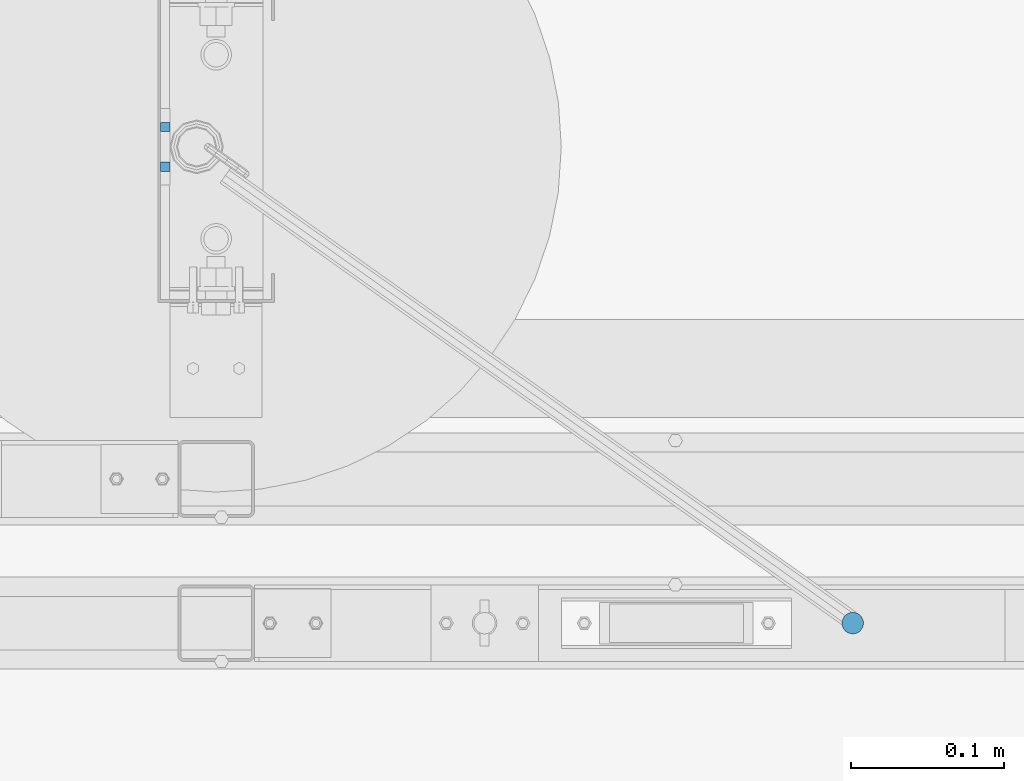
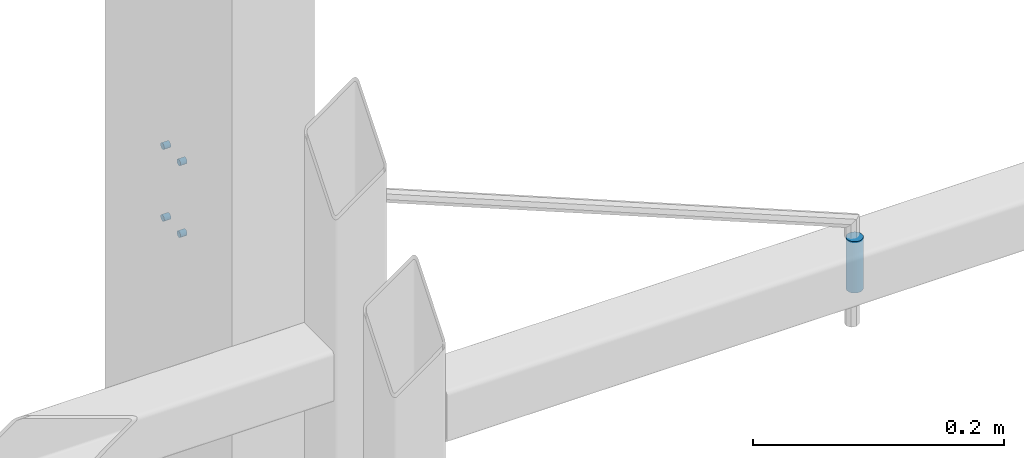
# One storey, part 30 of 91: 5 mechanical fasteners, 2 elements without a shape of their own.
"""IFC2X3 building model written with IfcOpenShell, lengths in millimetres."""

from ifc_helpers import new_model, si_unit, frame, origin_with_axes, origin_2d_with_axis, place, context, subcontext, project, spatial, circle, extrude, source, transform, mapped, material, type_object, element, aggregate, save


model = new_model("IFC2X3")

# Units and contexts
model_context = context("Model", 3, precision=1e-05, world=origin_with_axes())
body_context = subcontext(model_context, "Body", "Model", "MODEL_VIEW")
ifc_project = project(units=[si_unit("LENGTHUNIT", "METRE", prefix="MILLI"), si_unit("AREAUNIT", "SQUARE_METRE"), si_unit("VOLUMEUNIT", "CUBIC_METRE"), si_unit("MASSUNIT", "GRAM", prefix="KILO"), si_unit("TIMEUNIT", "SECOND"), si_unit("PLANEANGLEUNIT", "RADIAN"), si_unit("SOLIDANGLEUNIT", "STERADIAN"), si_unit("THERMODYNAMICTEMPERATUREUNIT", "DEGREE_CELSIUS"), si_unit("LUMINOUSINTENSITYUNIT", "LUMEN")], contexts=[model_context])

# Site, building, storey
site_placement = place(None, origin_with_axes())
site = spatial("IfcSite", under=ifc_project, at=site_placement, Name="Undefined", CompositionType="ELEMENT")
building_placement = place(site_placement, origin_with_axes())
building = spatial("IfcBuilding", under=site, at=building_placement, Name="Undefined", CompositionType="ELEMENT")
storey_placement = place(building_placement, origin_with_axes())
storey = spatial("IfcBuildingStorey", under=building, at=storey_placement, Name="Undefined", CompositionType="ELEMENT", Elevation=0.0)

# Assembly, mechanical fastener
assembly_1_placement = place(storey_placement, origin_with_axes())
assembly_1 = element("IfcElementAssembly", 1, at=assembly_1_placement, inside=storey, Name="SLIDING DOOR", AssemblyPlace="NOTDEFINED", PredefinedType="RIGID_FRAME")
ifc_material = material(Name="8.8S")
discrete_accessory_type = type_object("IfcDiscreteAccessoryType", Name="Bolt assembly")
shared_shape_1 = source(origin_with_axes(), body_context, "Body", "SweptSolid", [
    extrude(circle(Radius=7.0, at=origin_2d_with_axis()), frame((0.0, 0.0033333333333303, 0.0), z_axis=(0.0, 1.0, 0.0), x_axis=(1.0, 0.0, 0.0)), (0.0, 0.0, 1.0), 50.1),
])
mechanical_fastener_1_placement = place(assembly_1_placement, frame((-113343.336232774, 84618.15, 1147.34), z_axis=(1.0, 0.0, 0.0), x_axis=(0.0, -1.0, 0.0)))
mechanical_fastener_1 = element("IfcMechanicalFastener", 2, at=mechanical_fastener_1_placement, type_object=discrete_accessory_type, material=ifc_material, Name="Bolt assembly", NominalDiameter=12.0, NominalLength=49.9966659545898, context=body_context, shape_type="MappedRepresentation", body=[
    mapped(shared_shape_1, transform((0.0, 0.0, 0.0))),
])
aggregate(assembly_1, [mechanical_fastener_1])

# Assembly, mechanical fasteners
assembly_2_placement = place(storey_placement, origin_with_axes())
assembly_2 = element("IfcElementAssembly", 3, at=assembly_2_placement, inside=storey, Name="PLATE", AssemblyPlace="NOTDEFINED", PredefinedType="RIGID_FRAME")
shared_shape_2 = source(origin_with_axes(), body_context, "Body", "SweptSolid", [
    extrude(circle(Radius=3.0, at=origin_2d_with_axis()), frame((0.0, 0.0, 0.0), z_axis=(0.0, 1.0, 0.0), x_axis=(1.0, 0.0, 0.0)), (0.0, 0.0, 1.0), 6.1),
])
mechanical_fastener_2_placement = place(assembly_2_placement, frame((-113788.442606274, 84941.6517781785, 1127.34478745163), z_axis=(0.0, -1.0, 0.0), x_axis=(0.0, 0.0, 1.0)))
mechanical_fastener_2 = element("IfcMechanicalFastener", 4, at=mechanical_fastener_2_placement, type_object=discrete_accessory_type, material=ifc_material, Name="Bolt assembly", NominalDiameter=6.0, NominalLength=6.0, context=body_context, shape_type="MappedRepresentation", body=[
    mapped(shared_shape_2, transform((0.0, 0.0, 0.0))),
])
mechanical_fastener_3_placement = place(assembly_2_placement, frame((-113788.442606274, 84915.6482218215, 1127.34478745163), z_axis=(0.0, -1.0, 0.0), x_axis=(0.0, 0.0, 1.0)))
mechanical_fastener_3 = element("IfcMechanicalFastener", 5, at=mechanical_fastener_3_placement, type_object=discrete_accessory_type, material=ifc_material, Name="Bolt assembly", NominalDiameter=6.0, NominalLength=6.0, context=body_context, shape_type="MappedRepresentation", body=[
    mapped(shared_shape_2, transform((0.0, 0.0, 0.0))),
])
mechanical_fastener_4_placement = place(assembly_2_placement, frame((-113788.442606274, 84941.6517781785, 1197.34), z_axis=(0.0, 1.0, 0.0), x_axis=(0.0, 0.0, -1.0)))
mechanical_fastener_4 = element("IfcMechanicalFastener", 6, at=mechanical_fastener_4_placement, type_object=discrete_accessory_type, material=ifc_material, Name="Bolt assembly", NominalDiameter=6.0, NominalLength=6.0, context=body_context, shape_type="MappedRepresentation", body=[
    mapped(shared_shape_2, transform((0.0, 0.0, 0.0))),
])
mechanical_fastener_5_placement = place(assembly_2_placement, frame((-113788.442606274, 84915.6482218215, 1197.34), z_axis=(0.0, 1.0, 0.0), x_axis=(0.0, 0.0, -1.0)))
mechanical_fastener_5 = element("IfcMechanicalFastener", 7, at=mechanical_fastener_5_placement, type_object=discrete_accessory_type, material=ifc_material, Name="Bolt assembly", NominalDiameter=6.0, NominalLength=6.0, context=body_context, shape_type="MappedRepresentation", body=[
    mapped(shared_shape_2, transform((0.0, 0.0, 0.0))),
])
aggregate(assembly_2, [mechanical_fastener_2, mechanical_fastener_3, mechanical_fastener_4, mechanical_fastener_5])

save(model, "model.ifc")
